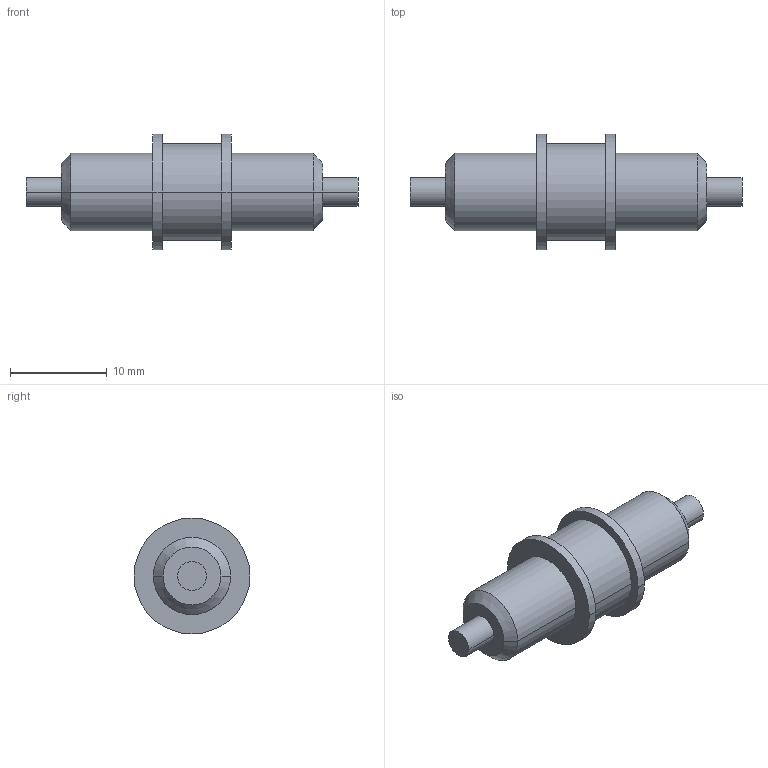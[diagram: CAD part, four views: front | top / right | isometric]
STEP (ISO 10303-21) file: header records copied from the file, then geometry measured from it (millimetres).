
FILE_DESCRIPTION (( 'STEP AP214' ), '1' );
FILE_NAME ('A100 Íàáîð êðåïëåíèé äëÿ äåëüòà êîðïóñà, âàë.STEP', '2019-04-26T10:01:59', ( 'Ïîëüçîâàòåëü Windows' ), ( '' ), 'SwSTEP 2.0', 'SolidWorks 2018', '' );
FILE_SCHEMA (( 'AUTOMOTIVE_DESIGN' ));
Length unit declared in the file: millimetre
Products named in the file (1): A100 Íàáîð êðåïëåíèé äëÿ äåëüòà êîðïóñà, âàë
Bounding box: 34.4 x 12 x 12 mm (x, y, z)
Volume: 1685.4 mm3; surface area: 1076 mm2
Topology: 1 solids, 1 shells, 26 faces, 50 edges, 32 vertices
Faces by surface type: cylinder 14, plane 8, cone 4
Entity records: 708 total; most frequent: DIRECTION 136, CARTESIAN_POINT 109, ORIENTED_EDGE 100, AXIS2_PLACEMENT_3D 59, EDGE_CURVE 50, EDGE_LOOP 32, CIRCLE 32, VERTEX_POINT 32
